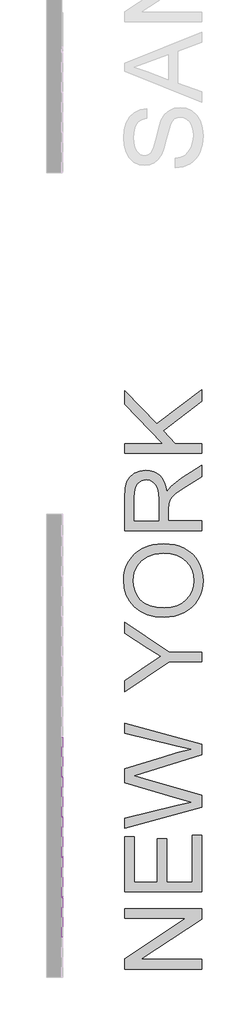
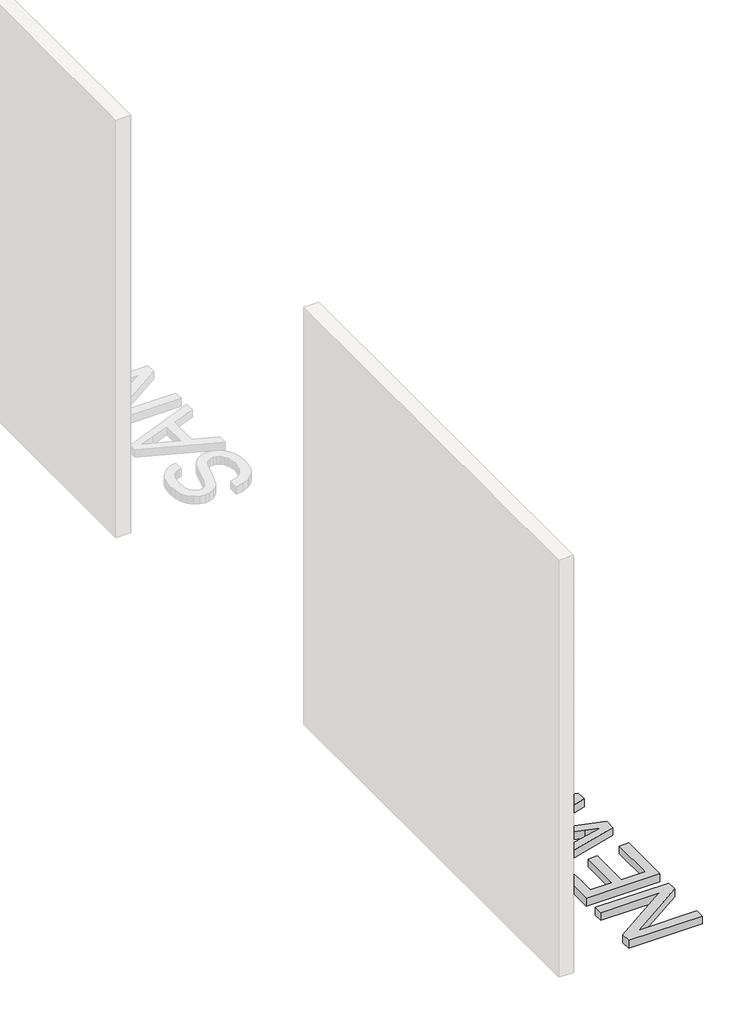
# One storey, part 22 of 45: 127 proxies.
"""IFC4 building model written with IfcOpenShell, lengths in millimetres."""

from ifc_helpers import new_model, si_unit, origin, origin_with_axes, place, context, project, spatial, polyline, outline, extrude, transform, mapped, element, save
from components import generic_models_ab0f2c30

model = new_model("IFC4")

# Units and contexts
model_context = context("Model", 3, world=origin())
ifc_project = project(units=[si_unit("LENGTHUNIT", "METRE", prefix="MILLI")], contexts=[model_context])

# Site, building, storey
site = spatial("IfcSite", under=ifc_project)
building = spatial("IfcBuilding", under=site)
storey = spatial("IfcBuildingStorey", under=building, Name="PORTOBELLO - SHOWROOM", Elevation=0.0)

# Proxies
placement = place(None, origin())
generic_models_shape = generic_models_ab0f2c30(model_context)
element("IfcBuildingElementProxy", 1, Name="PBSHOP - HORIZONTES NEW YORK 6,5X23 : NEW YORK", ObjectType="PBSHOP - HORIZONTES NEW YORK 6,5X23 : NEW YORK", at=placement, inside=storey, context=model_context, shape_type="MappedRepresentation", body=[
    mapped(generic_models_shape, transform((69111.8826867, 7202.0036359, 34.5), x_axis=(0.0, 0.0, 1.0), y_axis=(0.0, -1.0, 0.0), z_axis=(1.0, 0.0, 0.0))),
])
element("IfcBuildingElementProxy", 2, Name="PBSHOP - HORIZONTES NEW YORK 6,5X23 : NEW YORK", ObjectType="PBSHOP - HORIZONTES NEW YORK 6,5X23 : NEW YORK", at=placement, inside=storey, context=model_context, shape_type="MappedRepresentation", body=[
    mapped(generic_models_shape, transform((69111.8826867, 7436.0036359, 34.5), x_axis=(0.0, 0.0, 1.0), y_axis=(0.0, -1.0, 0.0), z_axis=(1.0, 0.0, 0.0))),
])
element("IfcBuildingElementProxy", 3, Name="PBSHOP - HORIZONTES NEW YORK 6,5X23 : NEW YORK", ObjectType="PBSHOP - HORIZONTES NEW YORK 6,5X23 : NEW YORK", at=placement, inside=storey, context=model_context, shape_type="MappedRepresentation", body=[
    mapped(generic_models_shape, transform((69111.8826867, 7670.0036359, 34.5), x_axis=(0.0, 0.0, 1.0), y_axis=(0.0, -1.0, 0.0), z_axis=(1.0, 0.0, 0.0))),
])
element("IfcBuildingElementProxy", 4, Name="PBSHOP - HORIZONTES NEW YORK 6,5X23 : NEW YORK", ObjectType="PBSHOP - HORIZONTES NEW YORK 6,5X23 : NEW YORK", at=placement, inside=storey, context=model_context, shape_type="MappedRepresentation", body=[
    mapped(generic_models_shape, transform((69111.8826867, 7904.0036359, 34.5), x_axis=(0.0, 0.0, 1.0), y_axis=(0.0, -1.0, 0.0), z_axis=(1.0, 0.0, 0.0))),
])
element("IfcBuildingElementProxy", 5, Name="PBSHOP - HORIZONTES NEW YORK 6,5X23 : NEW YORK", ObjectType="PBSHOP - HORIZONTES NEW YORK 6,5X23 : NEW YORK", at=placement, inside=storey, context=model_context, shape_type="MappedRepresentation", body=[
    mapped(generic_models_shape, transform((69111.8826867, 7202.0036359, 103.5), x_axis=(0.0, 0.0, 1.0), y_axis=(0.0, -1.0, 0.0), z_axis=(1.0, 0.0, 0.0))),
])
element("IfcBuildingElementProxy", 6, Name="PBSHOP - HORIZONTES NEW YORK 6,5X23 : NEW YORK", ObjectType="PBSHOP - HORIZONTES NEW YORK 6,5X23 : NEW YORK", at=placement, inside=storey, context=model_context, shape_type="MappedRepresentation", body=[
    mapped(generic_models_shape, transform((69111.8826867, 7436.0036359, 103.5), x_axis=(0.0, 0.0, 1.0), y_axis=(0.0, -1.0, 0.0), z_axis=(1.0, 0.0, 0.0))),
])
element("IfcBuildingElementProxy", 7, Name="PBSHOP - HORIZONTES NEW YORK 6,5X23 : NEW YORK", ObjectType="PBSHOP - HORIZONTES NEW YORK 6,5X23 : NEW YORK", at=placement, inside=storey, context=model_context, shape_type="MappedRepresentation", body=[
    mapped(generic_models_shape, transform((69111.8826867, 7670.0036359, 103.5), x_axis=(0.0, 0.0, 1.0), y_axis=(0.0, -1.0, 0.0), z_axis=(1.0, 0.0, 0.0))),
])
element("IfcBuildingElementProxy", 8, Name="PBSHOP - HORIZONTES NEW YORK 6,5X23 : NEW YORK", ObjectType="PBSHOP - HORIZONTES NEW YORK 6,5X23 : NEW YORK", at=placement, inside=storey, context=model_context, shape_type="MappedRepresentation", body=[
    mapped(generic_models_shape, transform((69111.8826867, 7904.0036359, 103.5), x_axis=(0.0, 0.0, 1.0), y_axis=(0.0, -1.0, 0.0), z_axis=(1.0, 0.0, 0.0))),
])
element("IfcBuildingElementProxy", 9, Name="PBSHOP - HORIZONTES NEW YORK 6,5X23 : NEW YORK", ObjectType="PBSHOP - HORIZONTES NEW YORK 6,5X23 : NEW YORK", at=placement, inside=storey, context=model_context, shape_type="MappedRepresentation", body=[
    mapped(generic_models_shape, transform((69111.8826867, 7202.0036359, 172.5), x_axis=(0.0, 0.0, 1.0), y_axis=(0.0, -1.0, 0.0), z_axis=(1.0, 0.0, 0.0))),
])
element("IfcBuildingElementProxy", 10, Name="PBSHOP - HORIZONTES NEW YORK 6,5X23 : NEW YORK", ObjectType="PBSHOP - HORIZONTES NEW YORK 6,5X23 : NEW YORK", at=placement, inside=storey, context=model_context, shape_type="MappedRepresentation", body=[
    mapped(generic_models_shape, transform((69111.8826867, 7436.0036359, 172.5), x_axis=(0.0, 0.0, 1.0), y_axis=(0.0, -1.0, 0.0), z_axis=(1.0, 0.0, 0.0))),
])
element("IfcBuildingElementProxy", 11, Name="PBSHOP - HORIZONTES NEW YORK 6,5X23 : NEW YORK", ObjectType="PBSHOP - HORIZONTES NEW YORK 6,5X23 : NEW YORK", at=placement, inside=storey, context=model_context, shape_type="MappedRepresentation", body=[
    mapped(generic_models_shape, transform((69111.8826867, 7670.0036359, 172.5), x_axis=(0.0, 0.0, 1.0), y_axis=(0.0, -1.0, 0.0), z_axis=(1.0, 0.0, 0.0))),
])
element("IfcBuildingElementProxy", 12, Name="PBSHOP - HORIZONTES NEW YORK 6,5X23 : NEW YORK", ObjectType="PBSHOP - HORIZONTES NEW YORK 6,5X23 : NEW YORK", at=placement, inside=storey, context=model_context, shape_type="MappedRepresentation", body=[
    mapped(generic_models_shape, transform((69111.8826867, 7904.0036359, 172.5), x_axis=(0.0, 0.0, 1.0), y_axis=(0.0, -1.0, 0.0), z_axis=(1.0, 0.0, 0.0))),
])
element("IfcBuildingElementProxy", 13, Name="PBSHOP - HORIZONTES NEW YORK 6,5X23 : NEW YORK", ObjectType="PBSHOP - HORIZONTES NEW YORK 6,5X23 : NEW YORK", at=placement, inside=storey, context=model_context, shape_type="MappedRepresentation", body=[
    mapped(generic_models_shape, transform((69111.8826867, 7202.0036359, 241.5), x_axis=(0.0, 0.0, 1.0), y_axis=(0.0, -1.0, 0.0), z_axis=(1.0, 0.0, 0.0))),
])
element("IfcBuildingElementProxy", 14, Name="PBSHOP - HORIZONTES NEW YORK 6,5X23 : NEW YORK", ObjectType="PBSHOP - HORIZONTES NEW YORK 6,5X23 : NEW YORK", at=placement, inside=storey, context=model_context, shape_type="MappedRepresentation", body=[
    mapped(generic_models_shape, transform((69111.8826867, 7436.0036359, 241.5), x_axis=(0.0, 0.0, 1.0), y_axis=(0.0, -1.0, 0.0), z_axis=(1.0, 0.0, 0.0))),
])
element("IfcBuildingElementProxy", 15, Name="PBSHOP - HORIZONTES NEW YORK 6,5X23 : NEW YORK", ObjectType="PBSHOP - HORIZONTES NEW YORK 6,5X23 : NEW YORK", at=placement, inside=storey, context=model_context, shape_type="MappedRepresentation", body=[
    mapped(generic_models_shape, transform((69111.8826867, 7670.0036359, 241.5), x_axis=(0.0, 0.0, 1.0), y_axis=(0.0, -1.0, 0.0), z_axis=(1.0, 0.0, 0.0))),
])
element("IfcBuildingElementProxy", 16, Name="PBSHOP - HORIZONTES NEW YORK 6,5X23 : NEW YORK", ObjectType="PBSHOP - HORIZONTES NEW YORK 6,5X23 : NEW YORK", at=placement, inside=storey, context=model_context, shape_type="MappedRepresentation", body=[
    mapped(generic_models_shape, transform((69111.8826867, 7904.0036359, 241.5), x_axis=(0.0, 0.0, 1.0), y_axis=(0.0, -1.0, 0.0), z_axis=(1.0, 0.0, 0.0))),
])
element("IfcBuildingElementProxy", 17, Name="PBSHOP - HORIZONTES NEW YORK 6,5X23 : NEW YORK", ObjectType="PBSHOP - HORIZONTES NEW YORK 6,5X23 : NEW YORK", at=placement, inside=storey, context=model_context, shape_type="MappedRepresentation", body=[
    mapped(generic_models_shape, transform((69111.8826867, 7202.0036359, 310.5), x_axis=(0.0, 0.0, 1.0), y_axis=(0.0, -1.0, 0.0), z_axis=(1.0, 0.0, 0.0))),
])
element("IfcBuildingElementProxy", 18, Name="PBSHOP - HORIZONTES NEW YORK 6,5X23 : NEW YORK", ObjectType="PBSHOP - HORIZONTES NEW YORK 6,5X23 : NEW YORK", at=placement, inside=storey, context=model_context, shape_type="MappedRepresentation", body=[
    mapped(generic_models_shape, transform((69111.8826867, 7436.0036359, 310.5), x_axis=(0.0, 0.0, 1.0), y_axis=(0.0, -1.0, 0.0), z_axis=(1.0, 0.0, 0.0))),
])
element("IfcBuildingElementProxy", 19, Name="PBSHOP - HORIZONTES NEW YORK 6,5X23 : NEW YORK", ObjectType="PBSHOP - HORIZONTES NEW YORK 6,5X23 : NEW YORK", at=placement, inside=storey, context=model_context, shape_type="MappedRepresentation", body=[
    mapped(generic_models_shape, transform((69111.8826867, 7670.0036359, 310.5), x_axis=(0.0, 0.0, 1.0), y_axis=(0.0, -1.0, 0.0), z_axis=(1.0, 0.0, 0.0))),
])
element("IfcBuildingElementProxy", 20, Name="PBSHOP - HORIZONTES NEW YORK 6,5X23 : NEW YORK", ObjectType="PBSHOP - HORIZONTES NEW YORK 6,5X23 : NEW YORK", at=placement, inside=storey, context=model_context, shape_type="MappedRepresentation", body=[
    mapped(generic_models_shape, transform((69111.8826867, 7904.0036359, 310.5), x_axis=(0.0, 0.0, 1.0), y_axis=(0.0, -1.0, 0.0), z_axis=(1.0, 0.0, 0.0))),
])
element("IfcBuildingElementProxy", 21, Name="PBSHOP - HORIZONTES NEW YORK 6,5X23 : NEW YORK", ObjectType="PBSHOP - HORIZONTES NEW YORK 6,5X23 : NEW YORK", at=placement, inside=storey, context=model_context, shape_type="MappedRepresentation", body=[
    mapped(generic_models_shape, transform((69111.8826867, 7202.0036359, 379.5), x_axis=(0.0, 0.0, 1.0), y_axis=(0.0, -1.0, 0.0), z_axis=(1.0, 0.0, 0.0))),
])
element("IfcBuildingElementProxy", 22, Name="PBSHOP - HORIZONTES NEW YORK 6,5X23 : NEW YORK", ObjectType="PBSHOP - HORIZONTES NEW YORK 6,5X23 : NEW YORK", at=placement, inside=storey, context=model_context, shape_type="MappedRepresentation", body=[
    mapped(generic_models_shape, transform((69111.8826867, 7436.0036359, 379.5), x_axis=(0.0, 0.0, 1.0), y_axis=(0.0, -1.0, 0.0), z_axis=(1.0, 0.0, 0.0))),
])
element("IfcBuildingElementProxy", 23, Name="PBSHOP - HORIZONTES NEW YORK 6,5X23 : NEW YORK", ObjectType="PBSHOP - HORIZONTES NEW YORK 6,5X23 : NEW YORK", at=placement, inside=storey, context=model_context, shape_type="MappedRepresentation", body=[
    mapped(generic_models_shape, transform((69111.8826867, 7670.0036359, 379.5), x_axis=(0.0, 0.0, 1.0), y_axis=(0.0, -1.0, 0.0), z_axis=(1.0, 0.0, 0.0))),
])
element("IfcBuildingElementProxy", 24, Name="PBSHOP - HORIZONTES NEW YORK 6,5X23 : NEW YORK", ObjectType="PBSHOP - HORIZONTES NEW YORK 6,5X23 : NEW YORK", at=placement, inside=storey, context=model_context, shape_type="MappedRepresentation", body=[
    mapped(generic_models_shape, transform((69111.8826867, 7904.0036359, 379.5), x_axis=(0.0, 0.0, 1.0), y_axis=(0.0, -1.0, 0.0), z_axis=(1.0, 0.0, 0.0))),
])
element("IfcBuildingElementProxy", 25, Name="PBSHOP - HORIZONTES NEW YORK 6,5X23 : NEW YORK", ObjectType="PBSHOP - HORIZONTES NEW YORK 6,5X23 : NEW YORK", at=placement, inside=storey, context=model_context, shape_type="MappedRepresentation", body=[
    mapped(generic_models_shape, transform((69111.8826867, 7202.0036359, 448.5), x_axis=(0.0, 0.0, 1.0), y_axis=(0.0, -1.0, 0.0), z_axis=(1.0, 0.0, 0.0))),
])
element("IfcBuildingElementProxy", 26, Name="PBSHOP - HORIZONTES NEW YORK 6,5X23 : NEW YORK", ObjectType="PBSHOP - HORIZONTES NEW YORK 6,5X23 : NEW YORK", at=placement, inside=storey, context=model_context, shape_type="MappedRepresentation", body=[
    mapped(generic_models_shape, transform((69111.8826867, 7436.0036359, 448.5), x_axis=(0.0, 0.0, 1.0), y_axis=(0.0, -1.0, 0.0), z_axis=(1.0, 0.0, 0.0))),
])
element("IfcBuildingElementProxy", 27, Name="PBSHOP - HORIZONTES NEW YORK 6,5X23 : NEW YORK", ObjectType="PBSHOP - HORIZONTES NEW YORK 6,5X23 : NEW YORK", at=placement, inside=storey, context=model_context, shape_type="MappedRepresentation", body=[
    mapped(generic_models_shape, transform((69111.8826867, 7670.0036359, 448.5), x_axis=(0.0, 0.0, 1.0), y_axis=(0.0, -1.0, 0.0), z_axis=(1.0, 0.0, 0.0))),
])
element("IfcBuildingElementProxy", 28, Name="PBSHOP - HORIZONTES NEW YORK 6,5X23 : NEW YORK", ObjectType="PBSHOP - HORIZONTES NEW YORK 6,5X23 : NEW YORK", at=placement, inside=storey, context=model_context, shape_type="MappedRepresentation", body=[
    mapped(generic_models_shape, transform((69111.8826867, 7904.0036359, 448.5), x_axis=(0.0, 0.0, 1.0), y_axis=(0.0, -1.0, 0.0), z_axis=(1.0, 0.0, 0.0))),
])
element("IfcBuildingElementProxy", 29, Name="PBSHOP - HORIZONTES NEW YORK 6,5X23 : NEW YORK", ObjectType="PBSHOP - HORIZONTES NEW YORK 6,5X23 : NEW YORK", at=placement, inside=storey, context=model_context, shape_type="MappedRepresentation", body=[
    mapped(generic_models_shape, transform((69111.8826867, 7202.0036359, 517.5), x_axis=(0.0, 0.0, 1.0), y_axis=(0.0, -1.0, 0.0), z_axis=(1.0, 0.0, 0.0))),
])
element("IfcBuildingElementProxy", 30, Name="PBSHOP - HORIZONTES NEW YORK 6,5X23 : NEW YORK", ObjectType="PBSHOP - HORIZONTES NEW YORK 6,5X23 : NEW YORK", at=placement, inside=storey, context=model_context, shape_type="MappedRepresentation", body=[
    mapped(generic_models_shape, transform((69111.8826867, 7436.0036359, 517.5), x_axis=(0.0, 0.0, 1.0), y_axis=(0.0, -1.0, 0.0), z_axis=(1.0, 0.0, 0.0))),
])
element("IfcBuildingElementProxy", 31, Name="PBSHOP - HORIZONTES NEW YORK 6,5X23 : NEW YORK", ObjectType="PBSHOP - HORIZONTES NEW YORK 6,5X23 : NEW YORK", at=placement, inside=storey, context=model_context, shape_type="MappedRepresentation", body=[
    mapped(generic_models_shape, transform((69111.8826867, 7670.0036359, 517.5), x_axis=(0.0, 0.0, 1.0), y_axis=(0.0, -1.0, 0.0), z_axis=(1.0, 0.0, 0.0))),
])
element("IfcBuildingElementProxy", 32, Name="PBSHOP - HORIZONTES NEW YORK 6,5X23 : NEW YORK", ObjectType="PBSHOP - HORIZONTES NEW YORK 6,5X23 : NEW YORK", at=placement, inside=storey, context=model_context, shape_type="MappedRepresentation", body=[
    mapped(generic_models_shape, transform((69111.8826867, 7904.0036359, 517.5), x_axis=(0.0, 0.0, 1.0), y_axis=(0.0, -1.0, 0.0), z_axis=(1.0, 0.0, 0.0))),
])
element("IfcBuildingElementProxy", 33, Name="PBSHOP - HORIZONTES NEW YORK 6,5X23 : NEW YORK", ObjectType="PBSHOP - HORIZONTES NEW YORK 6,5X23 : NEW YORK", at=placement, inside=storey, context=model_context, shape_type="MappedRepresentation", body=[
    mapped(generic_models_shape, transform((69111.8826867, 7202.0036359, 586.5), x_axis=(0.0, 0.0, 1.0), y_axis=(0.0, -1.0, 0.0), z_axis=(1.0, 0.0, 0.0))),
])
element("IfcBuildingElementProxy", 34, Name="PBSHOP - HORIZONTES NEW YORK 6,5X23 : NEW YORK", ObjectType="PBSHOP - HORIZONTES NEW YORK 6,5X23 : NEW YORK", at=placement, inside=storey, context=model_context, shape_type="MappedRepresentation", body=[
    mapped(generic_models_shape, transform((69111.8826867, 7436.0036359, 586.5), x_axis=(0.0, 0.0, 1.0), y_axis=(0.0, -1.0, 0.0), z_axis=(1.0, 0.0, 0.0))),
])
element("IfcBuildingElementProxy", 35, Name="PBSHOP - HORIZONTES NEW YORK 6,5X23 : NEW YORK", ObjectType="PBSHOP - HORIZONTES NEW YORK 6,5X23 : NEW YORK", at=placement, inside=storey, context=model_context, shape_type="MappedRepresentation", body=[
    mapped(generic_models_shape, transform((69111.8826867, 7670.0036359, 586.5), x_axis=(0.0, 0.0, 1.0), y_axis=(0.0, -1.0, 0.0), z_axis=(1.0, 0.0, 0.0))),
])
element("IfcBuildingElementProxy", 36, Name="PBSHOP - HORIZONTES NEW YORK 6,5X23 : NEW YORK", ObjectType="PBSHOP - HORIZONTES NEW YORK 6,5X23 : NEW YORK", at=placement, inside=storey, context=model_context, shape_type="MappedRepresentation", body=[
    mapped(generic_models_shape, transform((69111.8826867, 7904.0036359, 586.5), x_axis=(0.0, 0.0, 1.0), y_axis=(0.0, -1.0, 0.0), z_axis=(1.0, 0.0, 0.0))),
])
element("IfcBuildingElementProxy", 37, Name="PBSHOP - HORIZONTES NEW YORK 6,5X23 : NEW YORK", ObjectType="PBSHOP - HORIZONTES NEW YORK 6,5X23 : NEW YORK", at=placement, inside=storey, context=model_context, shape_type="MappedRepresentation", body=[
    mapped(generic_models_shape, transform((69111.8826867, 7202.0036359, 655.5), x_axis=(0.0, 0.0, 1.0), y_axis=(0.0, -1.0, 0.0), z_axis=(1.0, 0.0, 0.0))),
])
element("IfcBuildingElementProxy", 38, Name="PBSHOP - HORIZONTES NEW YORK 6,5X23 : NEW YORK", ObjectType="PBSHOP - HORIZONTES NEW YORK 6,5X23 : NEW YORK", at=placement, inside=storey, context=model_context, shape_type="MappedRepresentation", body=[
    mapped(generic_models_shape, transform((69111.8826867, 7436.0036359, 655.5), x_axis=(0.0, 0.0, 1.0), y_axis=(0.0, -1.0, 0.0), z_axis=(1.0, 0.0, 0.0))),
])
element("IfcBuildingElementProxy", 39, Name="PBSHOP - HORIZONTES NEW YORK 6,5X23 : NEW YORK", ObjectType="PBSHOP - HORIZONTES NEW YORK 6,5X23 : NEW YORK", at=placement, inside=storey, context=model_context, shape_type="MappedRepresentation", body=[
    mapped(generic_models_shape, transform((69111.8826867, 7670.0036359, 655.5), x_axis=(0.0, 0.0, 1.0), y_axis=(0.0, -1.0, 0.0), z_axis=(1.0, 0.0, 0.0))),
])
element("IfcBuildingElementProxy", 40, Name="PBSHOP - HORIZONTES NEW YORK 6,5X23 : NEW YORK", ObjectType="PBSHOP - HORIZONTES NEW YORK 6,5X23 : NEW YORK", at=placement, inside=storey, context=model_context, shape_type="MappedRepresentation", body=[
    mapped(generic_models_shape, transform((69111.8826867, 7904.0036359, 655.5), x_axis=(0.0, 0.0, 1.0), y_axis=(0.0, -1.0, 0.0), z_axis=(1.0, 0.0, 0.0))),
])
element("IfcBuildingElementProxy", 41, Name="PBSHOP - HORIZONTES NEW YORK 6,5X23 : NEW YORK", ObjectType="PBSHOP - HORIZONTES NEW YORK 6,5X23 : NEW YORK", at=placement, inside=storey, context=model_context, shape_type="MappedRepresentation", body=[
    mapped(generic_models_shape, transform((69111.8826867, 7202.0036359, 724.5), x_axis=(0.0, 0.0, 1.0), y_axis=(0.0, -1.0, 0.0), z_axis=(1.0, 0.0, 0.0))),
])
element("IfcBuildingElementProxy", 42, Name="PBSHOP - HORIZONTES NEW YORK 6,5X23 : NEW YORK", ObjectType="PBSHOP - HORIZONTES NEW YORK 6,5X23 : NEW YORK", at=placement, inside=storey, context=model_context, shape_type="MappedRepresentation", body=[
    mapped(generic_models_shape, transform((69111.8826867, 7436.0036359, 724.5), x_axis=(0.0, 0.0, 1.0), y_axis=(0.0, -1.0, 0.0), z_axis=(1.0, 0.0, 0.0))),
])
element("IfcBuildingElementProxy", 43, Name="PBSHOP - HORIZONTES NEW YORK 6,5X23 : NEW YORK", ObjectType="PBSHOP - HORIZONTES NEW YORK 6,5X23 : NEW YORK", at=placement, inside=storey, context=model_context, shape_type="MappedRepresentation", body=[
    mapped(generic_models_shape, transform((69111.8826867, 7670.0036359, 724.5), x_axis=(0.0, 0.0, 1.0), y_axis=(0.0, -1.0, 0.0), z_axis=(1.0, 0.0, 0.0))),
])
element("IfcBuildingElementProxy", 44, Name="PBSHOP - HORIZONTES NEW YORK 6,5X23 : NEW YORK", ObjectType="PBSHOP - HORIZONTES NEW YORK 6,5X23 : NEW YORK", at=placement, inside=storey, context=model_context, shape_type="MappedRepresentation", body=[
    mapped(generic_models_shape, transform((69111.8826867, 7904.0036359, 724.5), x_axis=(0.0, 0.0, 1.0), y_axis=(0.0, -1.0, 0.0), z_axis=(1.0, 0.0, 0.0))),
])
element("IfcBuildingElementProxy", 45, Name="PBSHOP - HORIZONTES NEW YORK 6,5X23 : NEW YORK", ObjectType="PBSHOP - HORIZONTES NEW YORK 6,5X23 : NEW YORK", at=placement, inside=storey, context=model_context, shape_type="MappedRepresentation", body=[
    mapped(generic_models_shape, transform((69111.8826867, 7202.0036359, 793.5), x_axis=(0.0, 0.0, 1.0), y_axis=(0.0, -1.0, 0.0), z_axis=(1.0, 0.0, 0.0))),
])
element("IfcBuildingElementProxy", 46, Name="PBSHOP - HORIZONTES NEW YORK 6,5X23 : NEW YORK", ObjectType="PBSHOP - HORIZONTES NEW YORK 6,5X23 : NEW YORK", at=placement, inside=storey, context=model_context, shape_type="MappedRepresentation", body=[
    mapped(generic_models_shape, transform((69111.8826867, 7436.0036359, 793.5), x_axis=(0.0, 0.0, 1.0), y_axis=(0.0, -1.0, 0.0), z_axis=(1.0, 0.0, 0.0))),
])
element("IfcBuildingElementProxy", 47, Name="PBSHOP - HORIZONTES NEW YORK 6,5X23 : NEW YORK", ObjectType="PBSHOP - HORIZONTES NEW YORK 6,5X23 : NEW YORK", at=placement, inside=storey, context=model_context, shape_type="MappedRepresentation", body=[
    mapped(generic_models_shape, transform((69111.8826867, 7670.0036359, 793.5), x_axis=(0.0, 0.0, 1.0), y_axis=(0.0, -1.0, 0.0), z_axis=(1.0, 0.0, 0.0))),
])
element("IfcBuildingElementProxy", 48, Name="PBSHOP - HORIZONTES NEW YORK 6,5X23 : NEW YORK", ObjectType="PBSHOP - HORIZONTES NEW YORK 6,5X23 : NEW YORK", at=placement, inside=storey, context=model_context, shape_type="MappedRepresentation", body=[
    mapped(generic_models_shape, transform((69111.8826867, 7904.0036359, 793.5), x_axis=(0.0, 0.0, 1.0), y_axis=(0.0, -1.0, 0.0), z_axis=(1.0, 0.0, 0.0))),
])
element("IfcBuildingElementProxy", 49, Name="PBSHOP - HORIZONTES NEW YORK 6,5X23 : NEW YORK", ObjectType="PBSHOP - HORIZONTES NEW YORK 6,5X23 : NEW YORK", at=placement, inside=storey, context=model_context, shape_type="MappedRepresentation", body=[
    mapped(generic_models_shape, transform((69111.8826867, 6500.0036359, 1621.5), x_axis=(0.0, 0.0, 1.0), y_axis=(0.0, -1.0, 0.0), z_axis=(1.0, 0.0, 0.0))),
])
element("IfcBuildingElementProxy", 50, Name="PBSHOP - HORIZONTES NEW YORK 6,5X23 : NEW YORK", ObjectType="PBSHOP - HORIZONTES NEW YORK 6,5X23 : NEW YORK", at=placement, inside=storey, context=model_context, shape_type="MappedRepresentation", body=[
    mapped(generic_models_shape, transform((69111.8826867, 6734.0036359, 1621.5), x_axis=(0.0, 0.0, 1.0), y_axis=(0.0, -1.0, 0.0), z_axis=(1.0, 0.0, 0.0))),
])
element("IfcBuildingElementProxy", 51, Name="PBSHOP - HORIZONTES NEW YORK 6,5X23 : NEW YORK", ObjectType="PBSHOP - HORIZONTES NEW YORK 6,5X23 : NEW YORK", at=placement, inside=storey, context=model_context, shape_type="MappedRepresentation", body=[
    mapped(generic_models_shape, transform((69111.8826867, 6968.0036359, 1621.5), x_axis=(0.0, 0.0, 1.0), y_axis=(0.0, -1.0, 0.0), z_axis=(1.0, 0.0, 0.0))),
])
element("IfcBuildingElementProxy", 52, Name="PBSHOP - HORIZONTES NEW YORK 6,5X23 : NEW YORK", ObjectType="PBSHOP - HORIZONTES NEW YORK 6,5X23 : NEW YORK", at=placement, inside=storey, context=model_context, shape_type="MappedRepresentation", body=[
    mapped(generic_models_shape, transform((69111.8826867, 6032.0036359, 1690.5), x_axis=(0.0, 0.0, 1.0), y_axis=(0.0, -1.0, 0.0), z_axis=(1.0, 0.0, 0.0))),
])
element("IfcBuildingElementProxy", 53, Name="PBSHOP - HORIZONTES NEW YORK 6,5X23 : NEW YORK", ObjectType="PBSHOP - HORIZONTES NEW YORK 6,5X23 : NEW YORK", at=placement, inside=storey, context=model_context, shape_type="MappedRepresentation", body=[
    mapped(generic_models_shape, transform((69111.8826867, 6266.0036359, 1690.5), x_axis=(0.0, 0.0, 1.0), y_axis=(0.0, -1.0, 0.0), z_axis=(1.0, 0.0, 0.0))),
])
element("IfcBuildingElementProxy", 54, Name="PBSHOP - HORIZONTES NEW YORK 6,5X23 : NEW YORK", ObjectType="PBSHOP - HORIZONTES NEW YORK 6,5X23 : NEW YORK", at=placement, inside=storey, context=model_context, shape_type="MappedRepresentation", body=[
    mapped(generic_models_shape, transform((69111.8826867, 6500.0036359, 1690.5), x_axis=(0.0, 0.0, 1.0), y_axis=(0.0, -1.0, 0.0), z_axis=(1.0, 0.0, 0.0))),
])
element("IfcBuildingElementProxy", 55, Name="PBSHOP - HORIZONTES NEW YORK 6,5X23 : NEW YORK", ObjectType="PBSHOP - HORIZONTES NEW YORK 6,5X23 : NEW YORK", at=placement, inside=storey, context=model_context, shape_type="MappedRepresentation", body=[
    mapped(generic_models_shape, transform((69111.8826867, 6734.0036359, 1690.5), x_axis=(0.0, 0.0, 1.0), y_axis=(0.0, -1.0, 0.0), z_axis=(1.0, 0.0, 0.0))),
])
element("IfcBuildingElementProxy", 56, Name="PBSHOP - HORIZONTES NEW YORK 6,5X23 : NEW YORK", ObjectType="PBSHOP - HORIZONTES NEW YORK 6,5X23 : NEW YORK", at=placement, inside=storey, context=model_context, shape_type="MappedRepresentation", body=[
    mapped(generic_models_shape, transform((69111.8826867, 6968.0036359, 1690.5), x_axis=(0.0, 0.0, 1.0), y_axis=(0.0, -1.0, 0.0), z_axis=(1.0, 0.0, 0.0))),
])
element("IfcBuildingElementProxy", 57, Name="PBSHOP - HORIZONTES NEW YORK 6,5X23 : NEW YORK", ObjectType="PBSHOP - HORIZONTES NEW YORK 6,5X23 : NEW YORK", at=placement, inside=storey, context=model_context, shape_type="MappedRepresentation", body=[
    mapped(generic_models_shape, transform((69111.8826867, 6032.0036359, 1759.5), x_axis=(0.0, 0.0, 1.0), y_axis=(0.0, -1.0, 0.0), z_axis=(1.0, 0.0, 0.0))),
])
element("IfcBuildingElementProxy", 58, Name="PBSHOP - HORIZONTES NEW YORK 6,5X23 : NEW YORK", ObjectType="PBSHOP - HORIZONTES NEW YORK 6,5X23 : NEW YORK", at=placement, inside=storey, context=model_context, shape_type="MappedRepresentation", body=[
    mapped(generic_models_shape, transform((69111.8826867, 6266.0036359, 1759.5), x_axis=(0.0, 0.0, 1.0), y_axis=(0.0, -1.0, 0.0), z_axis=(1.0, 0.0, 0.0))),
])
element("IfcBuildingElementProxy", 59, Name="PBSHOP - HORIZONTES NEW YORK 6,5X23 : NEW YORK", ObjectType="PBSHOP - HORIZONTES NEW YORK 6,5X23 : NEW YORK", at=placement, inside=storey, context=model_context, shape_type="MappedRepresentation", body=[
    mapped(generic_models_shape, transform((69111.8826867, 6500.0036359, 1759.5), x_axis=(0.0, 0.0, 1.0), y_axis=(0.0, -1.0, 0.0), z_axis=(1.0, 0.0, 0.0))),
])
element("IfcBuildingElementProxy", 60, Name="PBSHOP - HORIZONTES NEW YORK 6,5X23 : NEW YORK", ObjectType="PBSHOP - HORIZONTES NEW YORK 6,5X23 : NEW YORK", at=placement, inside=storey, context=model_context, shape_type="MappedRepresentation", body=[
    mapped(generic_models_shape, transform((69111.8826867, 6734.0036359, 1759.5), x_axis=(0.0, 0.0, 1.0), y_axis=(0.0, -1.0, 0.0), z_axis=(1.0, 0.0, 0.0))),
])
element("IfcBuildingElementProxy", 61, Name="PBSHOP - HORIZONTES NEW YORK 6,5X23 : NEW YORK", ObjectType="PBSHOP - HORIZONTES NEW YORK 6,5X23 : NEW YORK", at=placement, inside=storey, context=model_context, shape_type="MappedRepresentation", body=[
    mapped(generic_models_shape, transform((69111.8826867, 6968.0036359, 1759.5), x_axis=(0.0, 0.0, 1.0), y_axis=(0.0, -1.0, 0.0), z_axis=(1.0, 0.0, 0.0))),
])
element("IfcBuildingElementProxy", 62, Name="PBSHOP - HORIZONTES NEW YORK 6,5X23 : NEW YORK", ObjectType="PBSHOP - HORIZONTES NEW YORK 6,5X23 : NEW YORK", at=placement, inside=storey, context=model_context, shape_type="MappedRepresentation", body=[
    mapped(generic_models_shape, transform((69111.8826867, 6032.0036359, 1828.5), x_axis=(0.0, 0.0, 1.0), y_axis=(0.0, -1.0, 0.0), z_axis=(1.0, 0.0, 0.0))),
])
element("IfcBuildingElementProxy", 63, Name="PBSHOP - HORIZONTES NEW YORK 6,5X23 : NEW YORK", ObjectType="PBSHOP - HORIZONTES NEW YORK 6,5X23 : NEW YORK", at=placement, inside=storey, context=model_context, shape_type="MappedRepresentation", body=[
    mapped(generic_models_shape, transform((69111.8826867, 6266.0036359, 1828.5), x_axis=(0.0, 0.0, 1.0), y_axis=(0.0, -1.0, 0.0), z_axis=(1.0, 0.0, 0.0))),
])
element("IfcBuildingElementProxy", 64, Name="PBSHOP - HORIZONTES NEW YORK 6,5X23 : NEW YORK", ObjectType="PBSHOP - HORIZONTES NEW YORK 6,5X23 : NEW YORK", at=placement, inside=storey, context=model_context, shape_type="MappedRepresentation", body=[
    mapped(generic_models_shape, transform((69111.8826867, 6500.0036359, 1828.5), x_axis=(0.0, 0.0, 1.0), y_axis=(0.0, -1.0, 0.0), z_axis=(1.0, 0.0, 0.0))),
])
element("IfcBuildingElementProxy", 65, Name="PBSHOP - HORIZONTES NEW YORK 6,5X23 : NEW YORK", ObjectType="PBSHOP - HORIZONTES NEW YORK 6,5X23 : NEW YORK", at=placement, inside=storey, context=model_context, shape_type="MappedRepresentation", body=[
    mapped(generic_models_shape, transform((69111.8826867, 6734.0036359, 1828.5), x_axis=(0.0, 0.0, 1.0), y_axis=(0.0, -1.0, 0.0), z_axis=(1.0, 0.0, 0.0))),
])
element("IfcBuildingElementProxy", 66, Name="PBSHOP - HORIZONTES NEW YORK 6,5X23 : NEW YORK", ObjectType="PBSHOP - HORIZONTES NEW YORK 6,5X23 : NEW YORK", at=placement, inside=storey, context=model_context, shape_type="MappedRepresentation", body=[
    mapped(generic_models_shape, transform((69111.8826867, 6968.0036359, 1828.5), x_axis=(0.0, 0.0, 1.0), y_axis=(0.0, -1.0, 0.0), z_axis=(1.0, 0.0, 0.0))),
])
element("IfcBuildingElementProxy", 67, Name="PBSHOP - HORIZONTES NEW YORK 6,5X23 : NEW YORK", ObjectType="PBSHOP - HORIZONTES NEW YORK 6,5X23 : NEW YORK", at=placement, inside=storey, context=model_context, shape_type="MappedRepresentation", body=[
    mapped(generic_models_shape, transform((69111.8826867, 6032.0036359, 1897.5), x_axis=(0.0, 0.0, 1.0), y_axis=(0.0, -1.0, 0.0), z_axis=(1.0, 0.0, 0.0))),
])
element("IfcBuildingElementProxy", 68, Name="PBSHOP - HORIZONTES NEW YORK 6,5X23 : NEW YORK", ObjectType="PBSHOP - HORIZONTES NEW YORK 6,5X23 : NEW YORK", at=placement, inside=storey, context=model_context, shape_type="MappedRepresentation", body=[
    mapped(generic_models_shape, transform((69111.8826867, 6266.0036359, 1897.5), x_axis=(0.0, 0.0, 1.0), y_axis=(0.0, -1.0, 0.0), z_axis=(1.0, 0.0, 0.0))),
])
element("IfcBuildingElementProxy", 69, Name="PBSHOP - HORIZONTES NEW YORK 6,5X23 : NEW YORK", ObjectType="PBSHOP - HORIZONTES NEW YORK 6,5X23 : NEW YORK", at=placement, inside=storey, context=model_context, shape_type="MappedRepresentation", body=[
    mapped(generic_models_shape, transform((69111.8826867, 6500.0036359, 1897.5), x_axis=(0.0, 0.0, 1.0), y_axis=(0.0, -1.0, 0.0), z_axis=(1.0, 0.0, 0.0))),
])
element("IfcBuildingElementProxy", 70, Name="PBSHOP - HORIZONTES NEW YORK 6,5X23 : NEW YORK", ObjectType="PBSHOP - HORIZONTES NEW YORK 6,5X23 : NEW YORK", at=placement, inside=storey, context=model_context, shape_type="MappedRepresentation", body=[
    mapped(generic_models_shape, transform((69111.8826867, 6734.0036359, 1897.5), x_axis=(0.0, 0.0, 1.0), y_axis=(0.0, -1.0, 0.0), z_axis=(1.0, 0.0, 0.0))),
])
element("IfcBuildingElementProxy", 71, Name="PBSHOP - HORIZONTES NEW YORK 6,5X23 : NEW YORK", ObjectType="PBSHOP - HORIZONTES NEW YORK 6,5X23 : NEW YORK", at=placement, inside=storey, context=model_context, shape_type="MappedRepresentation", body=[
    mapped(generic_models_shape, transform((69111.8826867, 6968.0036359, 1897.5), x_axis=(0.0, 0.0, 1.0), y_axis=(0.0, -1.0, 0.0), z_axis=(1.0, 0.0, 0.0))),
])
element("IfcBuildingElementProxy", 72, Name="PBSHOP - HORIZONTES NEW YORK 6,5X23 : NEW YORK", ObjectType="PBSHOP - HORIZONTES NEW YORK 6,5X23 : NEW YORK", at=placement, inside=storey, context=model_context, shape_type="MappedRepresentation", body=[
    mapped(generic_models_shape, transform((69111.8826867, 6032.0036359, 1966.5), x_axis=(0.0, 0.0, 1.0), y_axis=(0.0, -1.0, 0.0), z_axis=(1.0, 0.0, 0.0))),
])
element("IfcBuildingElementProxy", 73, Name="PBSHOP - HORIZONTES NEW YORK 6,5X23 : NEW YORK", ObjectType="PBSHOP - HORIZONTES NEW YORK 6,5X23 : NEW YORK", at=placement, inside=storey, context=model_context, shape_type="MappedRepresentation", body=[
    mapped(generic_models_shape, transform((69111.8826867, 6266.0036359, 1966.5), x_axis=(0.0, 0.0, 1.0), y_axis=(0.0, -1.0, 0.0), z_axis=(1.0, 0.0, 0.0))),
])
element("IfcBuildingElementProxy", 74, Name="PBSHOP - HORIZONTES NEW YORK 6,5X23 : NEW YORK", ObjectType="PBSHOP - HORIZONTES NEW YORK 6,5X23 : NEW YORK", at=placement, inside=storey, context=model_context, shape_type="MappedRepresentation", body=[
    mapped(generic_models_shape, transform((69111.8826867, 6500.0036359, 1966.5), x_axis=(0.0, 0.0, 1.0), y_axis=(0.0, -1.0, 0.0), z_axis=(1.0, 0.0, 0.0))),
])
element("IfcBuildingElementProxy", 75, Name="PBSHOP - HORIZONTES NEW YORK 6,5X23 : NEW YORK", ObjectType="PBSHOP - HORIZONTES NEW YORK 6,5X23 : NEW YORK", at=placement, inside=storey, context=model_context, shape_type="MappedRepresentation", body=[
    mapped(generic_models_shape, transform((69111.8826867, 6734.0036359, 1966.5), x_axis=(0.0, 0.0, 1.0), y_axis=(0.0, -1.0, 0.0), z_axis=(1.0, 0.0, 0.0))),
])
element("IfcBuildingElementProxy", 76, Name="PBSHOP - HORIZONTES NEW YORK 6,5X23 : NEW YORK", ObjectType="PBSHOP - HORIZONTES NEW YORK 6,5X23 : NEW YORK", at=placement, inside=storey, context=model_context, shape_type="MappedRepresentation", body=[
    mapped(generic_models_shape, transform((69111.8826867, 6968.0036359, 1966.5), x_axis=(0.0, 0.0, 1.0), y_axis=(0.0, -1.0, 0.0), z_axis=(1.0, 0.0, 0.0))),
])
element("IfcBuildingElementProxy", 77, Name="PBSHOP - HORIZONTES NEW YORK 6,5X23 : NEW YORK", ObjectType="PBSHOP - HORIZONTES NEW YORK 6,5X23 : NEW YORK", at=placement, inside=storey, context=model_context, shape_type="MappedRepresentation", body=[
    mapped(generic_models_shape, transform((69111.8826867, 6032.0036359, 2035.5), x_axis=(0.0, 0.0, 1.0), y_axis=(0.0, -1.0, 0.0), z_axis=(1.0, 0.0, 0.0))),
])
element("IfcBuildingElementProxy", 78, Name="PBSHOP - HORIZONTES NEW YORK 6,5X23 : NEW YORK", ObjectType="PBSHOP - HORIZONTES NEW YORK 6,5X23 : NEW YORK", at=placement, inside=storey, context=model_context, shape_type="MappedRepresentation", body=[
    mapped(generic_models_shape, transform((69111.8826867, 6266.0036359, 2035.5), x_axis=(0.0, 0.0, 1.0), y_axis=(0.0, -1.0, 0.0), z_axis=(1.0, 0.0, 0.0))),
])
element("IfcBuildingElementProxy", 79, Name="PBSHOP - HORIZONTES NEW YORK 6,5X23 : NEW YORK", ObjectType="PBSHOP - HORIZONTES NEW YORK 6,5X23 : NEW YORK", at=placement, inside=storey, context=model_context, shape_type="MappedRepresentation", body=[
    mapped(generic_models_shape, transform((69111.8826867, 6500.0036359, 2035.5), x_axis=(0.0, 0.0, 1.0), y_axis=(0.0, -1.0, 0.0), z_axis=(1.0, 0.0, 0.0))),
])
element("IfcBuildingElementProxy", 80, Name="PBSHOP - HORIZONTES NEW YORK 6,5X23 : NEW YORK", ObjectType="PBSHOP - HORIZONTES NEW YORK 6,5X23 : NEW YORK", at=placement, inside=storey, context=model_context, shape_type="MappedRepresentation", body=[
    mapped(generic_models_shape, transform((69111.8826867, 6734.0036359, 2035.5), x_axis=(0.0, 0.0, 1.0), y_axis=(0.0, -1.0, 0.0), z_axis=(1.0, 0.0, 0.0))),
])
element("IfcBuildingElementProxy", 81, Name="PBSHOP - HORIZONTES NEW YORK 6,5X23 : NEW YORK", ObjectType="PBSHOP - HORIZONTES NEW YORK 6,5X23 : NEW YORK", at=placement, inside=storey, context=model_context, shape_type="MappedRepresentation", body=[
    mapped(generic_models_shape, transform((69111.8826867, 6968.0036359, 2035.5), x_axis=(0.0, 0.0, 1.0), y_axis=(0.0, -1.0, 0.0), z_axis=(1.0, 0.0, 0.0))),
])
element("IfcBuildingElementProxy", 82, Name="PBSHOP - HORIZONTES NEW YORK 6,5X23 : NEW YORK", ObjectType="PBSHOP - HORIZONTES NEW YORK 6,5X23 : NEW YORK", at=placement, inside=storey, context=model_context, shape_type="MappedRepresentation", body=[
    mapped(generic_models_shape, transform((69111.8826867, 6032.0036359, 2104.5), x_axis=(0.0, 0.0, 1.0), y_axis=(0.0, -1.0, 0.0), z_axis=(1.0, 0.0, 0.0))),
])
element("IfcBuildingElementProxy", 83, Name="PBSHOP - HORIZONTES NEW YORK 6,5X23 : NEW YORK", ObjectType="PBSHOP - HORIZONTES NEW YORK 6,5X23 : NEW YORK", at=placement, inside=storey, context=model_context, shape_type="MappedRepresentation", body=[
    mapped(generic_models_shape, transform((69111.8826867, 6266.0036359, 2104.5), x_axis=(0.0, 0.0, 1.0), y_axis=(0.0, -1.0, 0.0), z_axis=(1.0, 0.0, 0.0))),
])
element("IfcBuildingElementProxy", 84, Name="PBSHOP - HORIZONTES NEW YORK 6,5X23 : NEW YORK", ObjectType="PBSHOP - HORIZONTES NEW YORK 6,5X23 : NEW YORK", at=placement, inside=storey, context=model_context, shape_type="MappedRepresentation", body=[
    mapped(generic_models_shape, transform((69111.8826867, 6500.0036359, 2104.5), x_axis=(0.0, 0.0, 1.0), y_axis=(0.0, -1.0, 0.0), z_axis=(1.0, 0.0, 0.0))),
])
element("IfcBuildingElementProxy", 85, Name="PBSHOP - HORIZONTES NEW YORK 6,5X23 : NEW YORK", ObjectType="PBSHOP - HORIZONTES NEW YORK 6,5X23 : NEW YORK", at=placement, inside=storey, context=model_context, shape_type="MappedRepresentation", body=[
    mapped(generic_models_shape, transform((69111.8826867, 6734.0036359, 2104.5), x_axis=(0.0, 0.0, 1.0), y_axis=(0.0, -1.0, 0.0), z_axis=(1.0, 0.0, 0.0))),
])
element("IfcBuildingElementProxy", 86, Name="PBSHOP - HORIZONTES NEW YORK 6,5X23 : NEW YORK", ObjectType="PBSHOP - HORIZONTES NEW YORK 6,5X23 : NEW YORK", at=placement, inside=storey, context=model_context, shape_type="MappedRepresentation", body=[
    mapped(generic_models_shape, transform((69111.8826867, 6968.0036359, 2104.5), x_axis=(0.0, 0.0, 1.0), y_axis=(0.0, -1.0, 0.0), z_axis=(1.0, 0.0, 0.0))),
])
element("IfcBuildingElementProxy", 87, Name="PBSHOP - HORIZONTES NEW YORK 6,5X23 : NEW YORK", ObjectType="PBSHOP - HORIZONTES NEW YORK 6,5X23 : NEW YORK", at=placement, inside=storey, context=model_context, shape_type="MappedRepresentation", body=[
    mapped(generic_models_shape, transform((69111.8826867, 6032.0036359, 2173.5), x_axis=(0.0, 0.0, 1.0), y_axis=(0.0, -1.0, 0.0), z_axis=(1.0, 0.0, 0.0))),
])
element("IfcBuildingElementProxy", 88, Name="PBSHOP - HORIZONTES NEW YORK 6,5X23 : NEW YORK", ObjectType="PBSHOP - HORIZONTES NEW YORK 6,5X23 : NEW YORK", at=placement, inside=storey, context=model_context, shape_type="MappedRepresentation", body=[
    mapped(generic_models_shape, transform((69111.8826867, 6266.0036359, 2173.5), x_axis=(0.0, 0.0, 1.0), y_axis=(0.0, -1.0, 0.0), z_axis=(1.0, 0.0, 0.0))),
])
element("IfcBuildingElementProxy", 89, Name="PBSHOP - HORIZONTES NEW YORK 6,5X23 : NEW YORK", ObjectType="PBSHOP - HORIZONTES NEW YORK 6,5X23 : NEW YORK", at=placement, inside=storey, context=model_context, shape_type="MappedRepresentation", body=[
    mapped(generic_models_shape, transform((69111.8826867, 6500.0036359, 2173.5), x_axis=(0.0, 0.0, 1.0), y_axis=(0.0, -1.0, 0.0), z_axis=(1.0, 0.0, 0.0))),
])
element("IfcBuildingElementProxy", 90, Name="PBSHOP - HORIZONTES NEW YORK 6,5X23 : NEW YORK", ObjectType="PBSHOP - HORIZONTES NEW YORK 6,5X23 : NEW YORK", at=placement, inside=storey, context=model_context, shape_type="MappedRepresentation", body=[
    mapped(generic_models_shape, transform((69111.8826867, 6734.0036359, 2173.5), x_axis=(0.0, 0.0, 1.0), y_axis=(0.0, -1.0, 0.0), z_axis=(1.0, 0.0, 0.0))),
])
element("IfcBuildingElementProxy", 91, Name="PBSHOP - HORIZONTES NEW YORK 6,5X23 : NEW YORK", ObjectType="PBSHOP - HORIZONTES NEW YORK 6,5X23 : NEW YORK", at=placement, inside=storey, context=model_context, shape_type="MappedRepresentation", body=[
    mapped(generic_models_shape, transform((69111.8826867, 6968.0036359, 2173.5), x_axis=(0.0, 0.0, 1.0), y_axis=(0.0, -1.0, 0.0), z_axis=(1.0, 0.0, 0.0))),
])
element("IfcBuildingElementProxy", 92, Name="PBSHOP - HORIZONTES NEW YORK 6,5X23 : NEW YORK", ObjectType="PBSHOP - HORIZONTES NEW YORK 6,5X23 : NEW YORK", at=placement, inside=storey, context=model_context, shape_type="MappedRepresentation", body=[
    mapped(generic_models_shape, transform((69111.8826867, 6032.0036359, 2242.5), x_axis=(0.0, 0.0, 1.0), y_axis=(0.0, -1.0, 0.0), z_axis=(1.0, 0.0, 0.0))),
])
element("IfcBuildingElementProxy", 93, Name="PBSHOP - HORIZONTES NEW YORK 6,5X23 : NEW YORK", ObjectType="PBSHOP - HORIZONTES NEW YORK 6,5X23 : NEW YORK", at=placement, inside=storey, context=model_context, shape_type="MappedRepresentation", body=[
    mapped(generic_models_shape, transform((69111.8826867, 6266.0036359, 2242.5), x_axis=(0.0, 0.0, 1.0), y_axis=(0.0, -1.0, 0.0), z_axis=(1.0, 0.0, 0.0))),
])
element("IfcBuildingElementProxy", 94, Name="PBSHOP - HORIZONTES NEW YORK 6,5X23 : NEW YORK", ObjectType="PBSHOP - HORIZONTES NEW YORK 6,5X23 : NEW YORK", at=placement, inside=storey, context=model_context, shape_type="MappedRepresentation", body=[
    mapped(generic_models_shape, transform((69111.8826867, 6500.0036359, 2242.5), x_axis=(0.0, 0.0, 1.0), y_axis=(0.0, -1.0, 0.0), z_axis=(1.0, 0.0, 0.0))),
])
element("IfcBuildingElementProxy", 95, Name="PBSHOP - HORIZONTES NEW YORK 6,5X23 : NEW YORK", ObjectType="PBSHOP - HORIZONTES NEW YORK 6,5X23 : NEW YORK", at=placement, inside=storey, context=model_context, shape_type="MappedRepresentation", body=[
    mapped(generic_models_shape, transform((69111.8826867, 6734.0036359, 2242.5), x_axis=(0.0, 0.0, 1.0), y_axis=(0.0, -1.0, 0.0), z_axis=(1.0, 0.0, 0.0))),
])
element("IfcBuildingElementProxy", 96, Name="PBSHOP - HORIZONTES NEW YORK 6,5X23 : NEW YORK", ObjectType="PBSHOP - HORIZONTES NEW YORK 6,5X23 : NEW YORK", at=placement, inside=storey, context=model_context, shape_type="MappedRepresentation", body=[
    mapped(generic_models_shape, transform((69111.8826867, 6968.0036359, 2242.5), x_axis=(0.0, 0.0, 1.0), y_axis=(0.0, -1.0, 0.0), z_axis=(1.0, 0.0, 0.0))),
])
element("IfcBuildingElementProxy", 97, Name="PBSHOP - HORIZONTES NEW YORK 6,5X23 : NEW YORK", ObjectType="PBSHOP - HORIZONTES NEW YORK 6,5X23 : NEW YORK", at=placement, inside=storey, context=model_context, shape_type="MappedRepresentation", body=[
    mapped(generic_models_shape, transform((69111.8826867, 6032.0036359, 2311.5), x_axis=(0.0, 0.0, 1.0), y_axis=(0.0, -1.0, 0.0), z_axis=(1.0, 0.0, 0.0))),
])
element("IfcBuildingElementProxy", 98, Name="PBSHOP - HORIZONTES NEW YORK 6,5X23 : NEW YORK", ObjectType="PBSHOP - HORIZONTES NEW YORK 6,5X23 : NEW YORK", at=placement, inside=storey, context=model_context, shape_type="MappedRepresentation", body=[
    mapped(generic_models_shape, transform((69111.8826867, 6266.0036359, 2311.5), x_axis=(0.0, 0.0, 1.0), y_axis=(0.0, -1.0, 0.0), z_axis=(1.0, 0.0, 0.0))),
])
element("IfcBuildingElementProxy", 99, Name="PBSHOP - HORIZONTES NEW YORK 6,5X23 : NEW YORK", ObjectType="PBSHOP - HORIZONTES NEW YORK 6,5X23 : NEW YORK", at=placement, inside=storey, context=model_context, shape_type="MappedRepresentation", body=[
    mapped(generic_models_shape, transform((69111.8826867, 6500.0036359, 2311.5), x_axis=(0.0, 0.0, 1.0), y_axis=(0.0, -1.0, 0.0), z_axis=(1.0, 0.0, 0.0))),
])
element("IfcBuildingElementProxy", 100, Name="PBSHOP - HORIZONTES NEW YORK 6,5X23 : NEW YORK", ObjectType="PBSHOP - HORIZONTES NEW YORK 6,5X23 : NEW YORK", at=placement, inside=storey, context=model_context, shape_type="MappedRepresentation", body=[
    mapped(generic_models_shape, transform((69111.8826867, 6734.0036359, 2311.5), x_axis=(0.0, 0.0, 1.0), y_axis=(0.0, -1.0, 0.0), z_axis=(1.0, 0.0, 0.0))),
])
element("IfcBuildingElementProxy", 101, Name="PBSHOP - HORIZONTES NEW YORK 6,5X23 : NEW YORK", ObjectType="PBSHOP - HORIZONTES NEW YORK 6,5X23 : NEW YORK", at=placement, inside=storey, context=model_context, shape_type="MappedRepresentation", body=[
    mapped(generic_models_shape, transform((69111.8826867, 6968.0036359, 2311.5), x_axis=(0.0, 0.0, 1.0), y_axis=(0.0, -1.0, 0.0), z_axis=(1.0, 0.0, 0.0))),
])
element("IfcBuildingElementProxy", 102, Name="PBSHOP - HORIZONTES NEW YORK 6,5X23 : NEW YORK", ObjectType="PBSHOP - HORIZONTES NEW YORK 6,5X23 : NEW YORK", at=placement, inside=storey, context=model_context, shape_type="MappedRepresentation", body=[
    mapped(generic_models_shape, transform((69111.8826867, 6032.0036359, 2380.5), x_axis=(0.0, 0.0, 1.0), y_axis=(0.0, -1.0, 0.0), z_axis=(1.0, 0.0, 0.0))),
])
element("IfcBuildingElementProxy", 103, Name="PBSHOP - HORIZONTES NEW YORK 6,5X23 : NEW YORK", ObjectType="PBSHOP - HORIZONTES NEW YORK 6,5X23 : NEW YORK", at=placement, inside=storey, context=model_context, shape_type="MappedRepresentation", body=[
    mapped(generic_models_shape, transform((69111.8826867, 6266.0036359, 2380.5), x_axis=(0.0, 0.0, 1.0), y_axis=(0.0, -1.0, 0.0), z_axis=(1.0, 0.0, 0.0))),
])
element("IfcBuildingElementProxy", 104, Name="PBSHOP - HORIZONTES NEW YORK 6,5X23 : NEW YORK", ObjectType="PBSHOP - HORIZONTES NEW YORK 6,5X23 : NEW YORK", at=placement, inside=storey, context=model_context, shape_type="MappedRepresentation", body=[
    mapped(generic_models_shape, transform((69111.8826867, 6500.0036359, 2380.5), x_axis=(0.0, 0.0, 1.0), y_axis=(0.0, -1.0, 0.0), z_axis=(1.0, 0.0, 0.0))),
])
element("IfcBuildingElementProxy", 105, Name="PBSHOP - HORIZONTES NEW YORK 6,5X23 : NEW YORK", ObjectType="PBSHOP - HORIZONTES NEW YORK 6,5X23 : NEW YORK", at=placement, inside=storey, context=model_context, shape_type="MappedRepresentation", body=[
    mapped(generic_models_shape, transform((69111.8826867, 6734.0036359, 2380.5), x_axis=(0.0, 0.0, 1.0), y_axis=(0.0, -1.0, 0.0), z_axis=(1.0, 0.0, 0.0))),
])
element("IfcBuildingElementProxy", 106, Name="PBSHOP - HORIZONTES NEW YORK 6,5X23 : NEW YORK", ObjectType="PBSHOP - HORIZONTES NEW YORK 6,5X23 : NEW YORK", at=placement, inside=storey, context=model_context, shape_type="MappedRepresentation", body=[
    mapped(generic_models_shape, transform((69111.8826867, 6968.0036359, 2380.5), x_axis=(0.0, 0.0, 1.0), y_axis=(0.0, -1.0, 0.0), z_axis=(1.0, 0.0, 0.0))),
])
element("IfcBuildingElementProxy", 107, Name="PBSHOP - HORIZONTES NEW YORK 6,5X23 : NEW YORK", ObjectType="PBSHOP - HORIZONTES NEW YORK 6,5X23 : NEW YORK", at=placement, inside=storey, context=model_context, shape_type="MappedRepresentation", body=[
    mapped(generic_models_shape, transform((69111.8826867, 6032.0036359, 2449.5), x_axis=(0.0, 0.0, 1.0), y_axis=(0.0, -1.0, 0.0), z_axis=(1.0, 0.0, 0.0))),
])
element("IfcBuildingElementProxy", 108, Name="PBSHOP - HORIZONTES NEW YORK 6,5X23 : NEW YORK", ObjectType="PBSHOP - HORIZONTES NEW YORK 6,5X23 : NEW YORK", at=placement, inside=storey, context=model_context, shape_type="MappedRepresentation", body=[
    mapped(generic_models_shape, transform((69111.8826867, 6266.0036359, 2449.5), x_axis=(0.0, 0.0, 1.0), y_axis=(0.0, -1.0, 0.0), z_axis=(1.0, 0.0, 0.0))),
])
element("IfcBuildingElementProxy", 109, Name="PBSHOP - HORIZONTES NEW YORK 6,5X23 : NEW YORK", ObjectType="PBSHOP - HORIZONTES NEW YORK 6,5X23 : NEW YORK", at=placement, inside=storey, context=model_context, shape_type="MappedRepresentation", body=[
    mapped(generic_models_shape, transform((69111.8826867, 6500.0036359, 2449.5), x_axis=(0.0, 0.0, 1.0), y_axis=(0.0, -1.0, 0.0), z_axis=(1.0, 0.0, 0.0))),
])
element("IfcBuildingElementProxy", 110, Name="PBSHOP - HORIZONTES NEW YORK 6,5X23 : NEW YORK", ObjectType="PBSHOP - HORIZONTES NEW YORK 6,5X23 : NEW YORK", at=placement, inside=storey, context=model_context, shape_type="MappedRepresentation", body=[
    mapped(generic_models_shape, transform((69111.8826867, 6734.0036359, 2449.5), x_axis=(0.0, 0.0, 1.0), y_axis=(0.0, -1.0, 0.0), z_axis=(1.0, 0.0, 0.0))),
])
element("IfcBuildingElementProxy", 111, Name="PBSHOP - HORIZONTES NEW YORK 6,5X23 : NEW YORK", ObjectType="PBSHOP - HORIZONTES NEW YORK 6,5X23 : NEW YORK", at=placement, inside=storey, context=model_context, shape_type="MappedRepresentation", body=[
    mapped(generic_models_shape, transform((69111.8826867, 6968.0036359, 2449.5), x_axis=(0.0, 0.0, 1.0), y_axis=(0.0, -1.0, 0.0), z_axis=(1.0, 0.0, 0.0))),
])
element("IfcBuildingElementProxy", 112, Name="PBSHOP - HORIZONTES NEW YORK 6,5X23 : NEW YORK", ObjectType="PBSHOP - HORIZONTES NEW YORK 6,5X23 : NEW YORK", at=placement, inside=storey, context=model_context, shape_type="MappedRepresentation", body=[
    mapped(generic_models_shape, transform((69111.8826867, 6032.0036359, 2518.5), x_axis=(0.0, 0.0, 1.0), y_axis=(0.0, -1.0, 0.0), z_axis=(1.0, 0.0, 0.0))),
])
element("IfcBuildingElementProxy", 113, Name="PBSHOP - HORIZONTES NEW YORK 6,5X23 : NEW YORK", ObjectType="PBSHOP - HORIZONTES NEW YORK 6,5X23 : NEW YORK", at=placement, inside=storey, context=model_context, shape_type="MappedRepresentation", body=[
    mapped(generic_models_shape, transform((69111.8826867, 6266.0036359, 2518.5), x_axis=(0.0, 0.0, 1.0), y_axis=(0.0, -1.0, 0.0), z_axis=(1.0, 0.0, 0.0))),
])
element("IfcBuildingElementProxy", 114, Name="PBSHOP - HORIZONTES NEW YORK 6,5X23 : NEW YORK", ObjectType="PBSHOP - HORIZONTES NEW YORK 6,5X23 : NEW YORK", at=placement, inside=storey, context=model_context, shape_type="MappedRepresentation", body=[
    mapped(generic_models_shape, transform((69111.8826867, 6500.0036359, 2518.5), x_axis=(0.0, 0.0, 1.0), y_axis=(0.0, -1.0, 0.0), z_axis=(1.0, 0.0, 0.0))),
])
element("IfcBuildingElementProxy", 115, Name="PBSHOP - HORIZONTES NEW YORK 6,5X23 : NEW YORK", ObjectType="PBSHOP - HORIZONTES NEW YORK 6,5X23 : NEW YORK", at=placement, inside=storey, context=model_context, shape_type="MappedRepresentation", body=[
    mapped(generic_models_shape, transform((69111.8826867, 6734.0036359, 2518.5), x_axis=(0.0, 0.0, 1.0), y_axis=(0.0, -1.0, 0.0), z_axis=(1.0, 0.0, 0.0))),
])
element("IfcBuildingElementProxy", 116, Name="PBSHOP - HORIZONTES NEW YORK 6,5X23 : NEW YORK", ObjectType="PBSHOP - HORIZONTES NEW YORK 6,5X23 : NEW YORK", at=placement, inside=storey, context=model_context, shape_type="MappedRepresentation", body=[
    mapped(generic_models_shape, transform((69111.8826867, 6968.0036359, 2518.5), x_axis=(0.0, 0.0, 1.0), y_axis=(0.0, -1.0, 0.0), z_axis=(1.0, 0.0, 0.0))),
])
element("IfcBuildingElementProxy", 117, Name="PBSHOP - HORIZONTES NEW YORK 6,5X23 : NEW YORK", ObjectType="PBSHOP - HORIZONTES NEW YORK 6,5X23 : NEW YORK", at=placement, inside=storey, context=model_context, shape_type="MappedRepresentation", body=[
    mapped(generic_models_shape, transform((69111.8826867, 6032.0036359, 2587.5), x_axis=(0.0, 0.0, 1.0), y_axis=(0.0, -1.0, 0.0), z_axis=(1.0, 0.0, 0.0))),
])
element("IfcBuildingElementProxy", 118, Name="PBSHOP - HORIZONTES NEW YORK 6,5X23 : NEW YORK", ObjectType="PBSHOP - HORIZONTES NEW YORK 6,5X23 : NEW YORK", at=placement, inside=storey, context=model_context, shape_type="MappedRepresentation", body=[
    mapped(generic_models_shape, transform((69111.8826867, 6266.0036359, 2587.5), x_axis=(0.0, 0.0, 1.0), y_axis=(0.0, -1.0, 0.0), z_axis=(1.0, 0.0, 0.0))),
])
element("IfcBuildingElementProxy", 119, Name="PBSHOP - HORIZONTES NEW YORK 6,5X23 : NEW YORK", ObjectType="PBSHOP - HORIZONTES NEW YORK 6,5X23 : NEW YORK", at=placement, inside=storey, context=model_context, shape_type="MappedRepresentation", body=[
    mapped(generic_models_shape, transform((69111.8826867, 6500.0036359, 2587.5), x_axis=(0.0, 0.0, 1.0), y_axis=(0.0, -1.0, 0.0), z_axis=(1.0, 0.0, 0.0))),
])
element("IfcBuildingElementProxy", 120, Name="PBSHOP - HORIZONTES NEW YORK 6,5X23 : NEW YORK", ObjectType="PBSHOP - HORIZONTES NEW YORK 6,5X23 : NEW YORK", at=placement, inside=storey, context=model_context, shape_type="MappedRepresentation", body=[
    mapped(generic_models_shape, transform((69111.8826867, 6734.0036359, 2587.5), x_axis=(0.0, 0.0, 1.0), y_axis=(0.0, -1.0, 0.0), z_axis=(1.0, 0.0, 0.0))),
])
element("IfcBuildingElementProxy", 121, Name="PBSHOP - HORIZONTES NEW YORK 6,5X23 : NEW YORK", ObjectType="PBSHOP - HORIZONTES NEW YORK 6,5X23 : NEW YORK", at=placement, inside=storey, context=model_context, shape_type="MappedRepresentation", body=[
    mapped(generic_models_shape, transform((69111.8826867, 6968.0036359, 2587.5), x_axis=(0.0, 0.0, 1.0), y_axis=(0.0, -1.0, 0.0), z_axis=(1.0, 0.0, 0.0))),
])
element("IfcBuildingElementProxy", 122, Name="PBSHOP - HORIZONTES NEW YORK 6,5X23 : NEW YORK", ObjectType="PBSHOP - HORIZONTES NEW YORK 6,5X23 : NEW YORK", at=placement, inside=storey, context=model_context, shape_type="MappedRepresentation", body=[
    mapped(generic_models_shape, transform((69111.8826867, 6032.0036359, 2656.5), x_axis=(0.0, 0.0, 1.0), y_axis=(0.0, -1.0, 0.0), z_axis=(1.0, 0.0, 0.0))),
])
element("IfcBuildingElementProxy", 123, Name="PBSHOP - HORIZONTES NEW YORK 6,5X23 : NEW YORK", ObjectType="PBSHOP - HORIZONTES NEW YORK 6,5X23 : NEW YORK", at=placement, inside=storey, context=model_context, shape_type="MappedRepresentation", body=[
    mapped(generic_models_shape, transform((69111.8826867, 6266.0036359, 2656.5), x_axis=(0.0, 0.0, 1.0), y_axis=(0.0, -1.0, 0.0), z_axis=(1.0, 0.0, 0.0))),
])
element("IfcBuildingElementProxy", 124, Name="PBSHOP - HORIZONTES NEW YORK 6,5X23 : NEW YORK", ObjectType="PBSHOP - HORIZONTES NEW YORK 6,5X23 : NEW YORK", at=placement, inside=storey, context=model_context, shape_type="MappedRepresentation", body=[
    mapped(generic_models_shape, transform((69111.8826867, 6500.0036359, 2656.5), x_axis=(0.0, 0.0, 1.0), y_axis=(0.0, -1.0, 0.0), z_axis=(1.0, 0.0, 0.0))),
])
element("IfcBuildingElementProxy", 125, Name="PBSHOP - HORIZONTES NEW YORK 6,5X23 : NEW YORK", ObjectType="PBSHOP - HORIZONTES NEW YORK 6,5X23 : NEW YORK", at=placement, inside=storey, context=model_context, shape_type="MappedRepresentation", body=[
    mapped(generic_models_shape, transform((69111.8826867, 6734.0036359, 2656.5), x_axis=(0.0, 0.0, 1.0), y_axis=(0.0, -1.0, 0.0), z_axis=(1.0, 0.0, 0.0))),
])
element("IfcBuildingElementProxy", 126, Name="PBSHOP - HORIZONTES NEW YORK 6,5X23 : NEW YORK", ObjectType="PBSHOP - HORIZONTES NEW YORK 6,5X23 : NEW YORK", at=placement, inside=storey, context=model_context, shape_type="MappedRepresentation", body=[
    mapped(generic_models_shape, transform((69111.8826867, 6968.0036359, 2656.5), x_axis=(0.0, 0.0, 1.0), y_axis=(0.0, -1.0, 0.0), z_axis=(1.0, 0.0, 0.0))),
])
element("IfcBuildingElementProxy", 127, Name="450mm Arial", ObjectType="450mm Arial", at=placement, inside=storey, context=model_context, shape_type="SweptSolid", body=[
    extrude(outline(polyline([(69928.1157676, 5730.1847765), (69478.4596248, 5730.1847765), (69478.4596248, 5790.3438503), (69834.6935563, 6025.2716203), (69478.4596248, 6025.2716203), (69478.4596248, 6081.4786381), (69928.1157676, 6081.4786381), (69928.1157676, 6021.3195643), (69571.7720568, 5786.3917944), (69928.1157676, 5786.3917944), (69928.1157676, 5730.1847765)])), origin_with_axes(), (0.0, 0.0, 1.0), 50.0),
    extrude(outline(polyline([(69928.1157676, 6179.8409193), (69478.4596248, 6179.8409193), (69478.4596248, 6503.031272), (69534.6666426, 6503.031272), (69534.6666426, 6236.0479372), (69668.15831, 6236.0479372), (69668.15831, 6488.9795175), (69724.3653279, 6488.9795175), (69724.3653279, 6236.0479372), (69871.9087498, 6236.0479372), (69871.9087498, 6510.0571492), (69928.1157676, 6510.0571492), (69928.1157676, 6179.8409193)])), origin_with_axes(), (0.0, 0.0, 1.0), 50.0),
    extrude(outline(polyline([(69928.1157676, 6674.8359262), (69478.4596248, 6552.2124126), (69478.4596248, 6610.1758998), (69773.9855858, 6681.3129067), (69865.2122105, 6703.2687731), (69784.5244017, 6726.7615501), (69478.4596248, 6815.9023675), (69478.4596248, 6899.4444389), (69700.3236542, 6964.2142446), (69782.6581531, 6991.9609707), (69865.2122105, 7012.4073713), (69776.6202898, 7033.7045616), (69478.4596248, 7105.5002446), (69478.4596248, 7163.4637318), (69928.1157676, 7040.7304389), (69928.1157676, 6980.6811444), (69581.2130793, 6872.8778406), (69532.800394, 6857.8380722), (69591.0932192, 6840.9320551), (69928.1157676, 6742.6795532), (69928.1157676, 6674.8359262)])), origin_with_axes(), (0.0, 0.0, 1.0), 50.0),
    extrude(outline(polyline([(69928.1157676, 7521.7834706), (69737.648627, 7521.7834706), (69478.4596248, 7346.1365398), (69478.4596248, 7412.4432562), (69616.8913621, 7506.1948055), (69687.4794724, 7554.1683734), (69611.8415129, 7602.2517207), (69478.4596248, 7687.3307028), (69478.4596248, 7753.6374192), (69737.648627, 7577.9904884), (69928.1157676, 7577.9904884), (69928.1157676, 7521.7834706)])), origin_with_axes(), (0.0, 0.0, 1.0), 50.0),
    extrude(outline(polyline([(69709.2157801, 7781.7409281), (69656.4736724, 7785.4871478), (69609.7831504, 7796.7258069), (69569.144214, 7815.4569054), (69534.5568633, 7841.6804433), (69506.9405002, 7873.8252038), (69487.2145265, 7910.3199704), (69475.3789423, 7951.1647431), (69471.4337476, 7996.3595217), (69473.2862738, 8026.6105888), (69478.8438525, 8055.3384677), (69488.1064836, 8082.5431583), (69501.0741671, 8108.2246607), (69517.3558143, 8131.6625481), (69536.5603361, 8152.1363934), (69558.6877327, 8169.6461968), (69583.7380039, 8184.1919583), (69611.1416696, 8195.6227312), (69640.3292494, 8203.787569), (69671.3007434, 8208.6864717), (69704.0561515, 8210.3194393), (69737.2438158, 8208.6007066), (69768.6338434, 8203.4445086), (69798.2262345, 8194.8508453), (69826.0209891, 8182.8197167), (69851.2839578, 8167.6358628), (69873.2809914, 8149.584024), (69892.0120899, 8128.6642001), (69907.4772532, 8104.8763911), (69919.5804246, 8079.1571521), (69928.2255469, 8052.4430378), (69933.4126204, 8024.7340483), (69935.1416448, 7996.0301837), (69933.2307984, 7965.2508036), (69927.4982589, 7936.1455582), (69917.9440264, 7908.7144477), (69904.568101, 7882.957472), (69887.8885037, 7859.5470295), (69868.423256, 7839.1555186), (69846.1723577, 7821.7829394), (69821.1358088, 7807.4292918), (69794.3187764, 7796.1906327), (69766.7264275, 7788.163019), (69738.3587621, 7783.3464509), (69709.2157801, 7781.7409281)]), holes=[polyline([(69709.7646768, 7837.947946), (69747.0278987, 7840.7576108), (69780.1057836, 7849.1866051), (69808.9983315, 7863.2349289), (69833.7055423, 7882.9025823), (69853.4932669, 7906.8104624), (69867.6273558, 7933.5794664), (69876.1078092, 7963.2095941), (69878.934627, 7995.7008457), (69876.0803644, 8028.7478552), (69867.5175765, 8058.7279045), (69853.2462634, 8085.6409938), (69833.266425, 8109.4871231), (69808.0377623, 8129.0106911), (69778.0199763, 8142.9560968), (69743.2130669, 8151.3233403), (69703.6170342, 8154.1124214), (69653.8595521, 8149.3370205), (69610.8534989, 8135.0108177), (69575.6829455, 8111.5043183), (69549.4319628, 8079.1880275), (69533.0885648, 8040.2026423), (69527.6407654, 7996.6888597), (69530.2651776, 7965.3262768), (69538.138414, 7936.2278927), (69551.2604748, 7909.3937073), (69569.6313598, 7884.8237206), (69594.136165, 7864.3155692), (69625.6599862, 7849.6668897), (69664.2028235, 7840.8776819), (69709.7646768, 7837.947946)])]), origin_with_axes(), (0.0, 0.0, 1.0), 50.0),
    extrude(outline(polyline([(69928.1157676, 8287.6040888), (69478.4596248, 8287.6040888), (69478.4596248, 8481.3646093), (69481.4922788, 8533.4411798), (69490.590241, 8571.3287717), (69507.3864787, 8599.0206081), (69533.5139597, 8620.5099123), (69565.9125849, 8634.3009409), (69601.5222557, 8638.8979504), (69624.6170826, 8636.9939651), (69645.818216, 8631.2820092), (69665.125656, 8621.7620828), (69682.5394025, 8608.4341858), (69697.5036977, 8591.1267881), (69709.4627836, 8569.6683593), (69718.4166604, 8544.0588996), (69724.3653279, 8514.2984089), (69748.4070015, 8546.2441944), (69806.2607094, 8591.8026171), (69928.1157676, 8666.7819006), (69928.1157676, 8601.4631983), (69834.913115, 8542.9508144), (69773.2171305, 8500.6857717), (69755.2270425, 8484.9736049), (69744.0707179, 8470.9904625), (69733.3672331, 8444.2591952), (69731.3912051, 8411.6547337), (69731.3912051, 8343.8111067), (69928.1157676, 8343.8111067), (69928.1157676, 8287.6040888)]), holes=[polyline([(69675.1841873, 8343.8111067), (69675.1841873, 8469.6182208), (69673.1944369, 8505.7493434), (69667.2251857, 8533.7842402), (69656.8784837, 8554.8893168), (69641.7563808, 8570.2309784), (69623.4643996, 8579.575944), (69603.608063, 8582.6909325), (69589.2338317, 8581.2054809), (69576.1906749, 8576.7491262), (69554.0975844, 8558.9237072), (69545.5965474, 8545.3145007), (69539.5243781, 8528.2541064), (69534.6666426, 8483.7797546), (69534.6666426, 8343.8111067), (69675.1841873, 8343.8111067)])]), origin_with_axes(), (0.0, 0.0, 1.0), 50.0),
    extrude(outline(polyline([(69928.1157676, 8737.2602316), (69478.4596248, 8737.2602316), (69478.4596248, 8793.4672495), (69698.5671849, 8793.4672495), (69478.4596248, 9024.0038461), (69478.4596248, 9102.6058477), (69663.3280194, 8909.0648858), (69928.1157676, 9109.6317249), (69928.1157676, 9040.9098632), (69701.3116682, 8869.2149884), (69773.5464685, 8793.4672495), (69928.1157676, 8793.4672495), (69928.1157676, 8737.2602316)])), origin_with_axes(), (0.0, 0.0, 1.0), 50.0),
])

save(model, "model.ifc")
